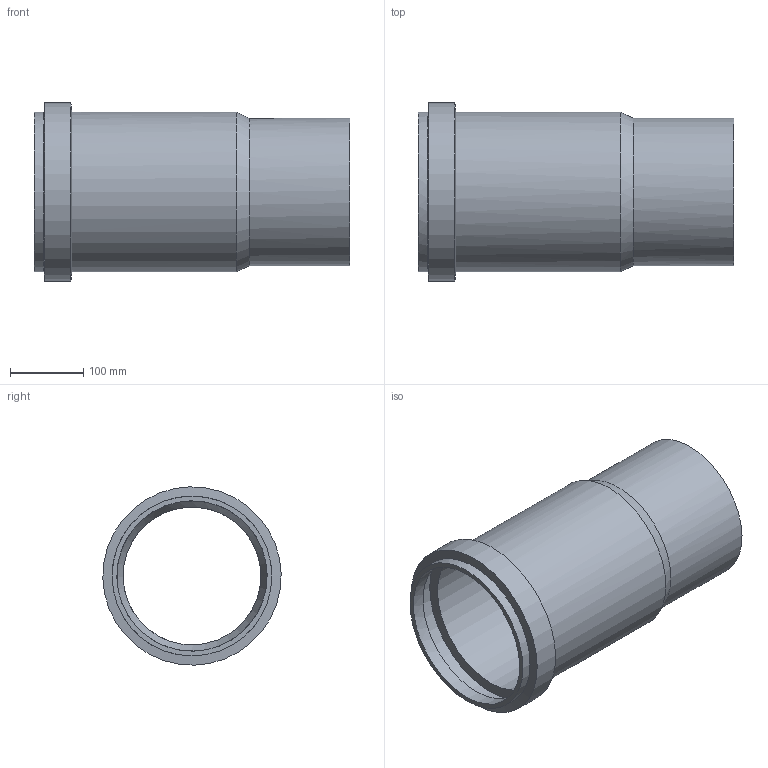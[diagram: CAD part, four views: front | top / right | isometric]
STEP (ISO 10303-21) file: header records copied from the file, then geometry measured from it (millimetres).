
FILE_DESCRIPTION(/* description */ (''),/* implementation_level */ '2;1');
FILE_NAME(/* name */ 'C:\Planerdaten\Export PLA\370.700.16.1\stp\370700.stp',/* time_stamp */ '2019-09-24T07:22:10+02:00',/* author */ ('JANAN'),/* organization */ (''),/* preprocessor_version */ 'ST-DEVELOPER v16.13',/* originating_system */ 'Autodesk Inventor 2018',/* authorisation */ '');
FILE_SCHEMA (('AUTOMOTIVE_DESIGN { 1 0 10303 214 3 1 1 }'));
Length unit declared in the file: millimetre
Products named in the file (1): Langmuffe PE-HD d200
Bounding box: 430 x 242.73 x 242.73 mm (x, y, z)
Volume: 1873813.3 mm3; surface area: 604233.3 mm2
Topology: 1 solids, 1 shells, 16 faces, 35 edges, 21 vertices
Faces by surface type: cylinder 8, cone 6, plane 2
Full cylindrical faces by diameter (mm): 187.5 x1, 200.55 x1, 204.5 x1, 204.6 x1, 217.3 x1, 217.4 x1, 232 x1, 242.8 x1
Entity records: 390 total; most frequent: DIRECTION 66, CARTESIAN_POINT 49, AXIS2_PLACEMENT_3D 33, EDGE_LOOP 32, ORIENTED_EDGE 32, STYLED_ITEM 17, FACE_BOUND 16, FACE_OUTER_BOUND 16
